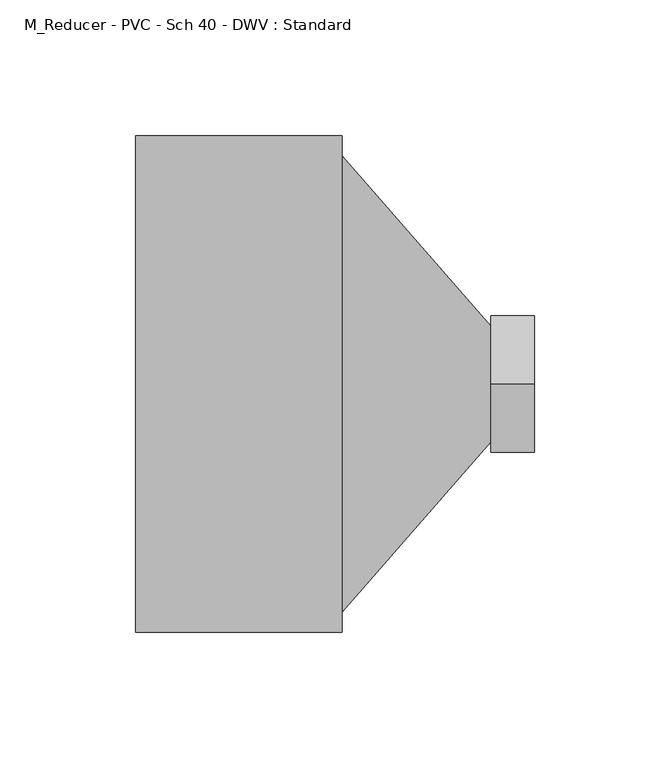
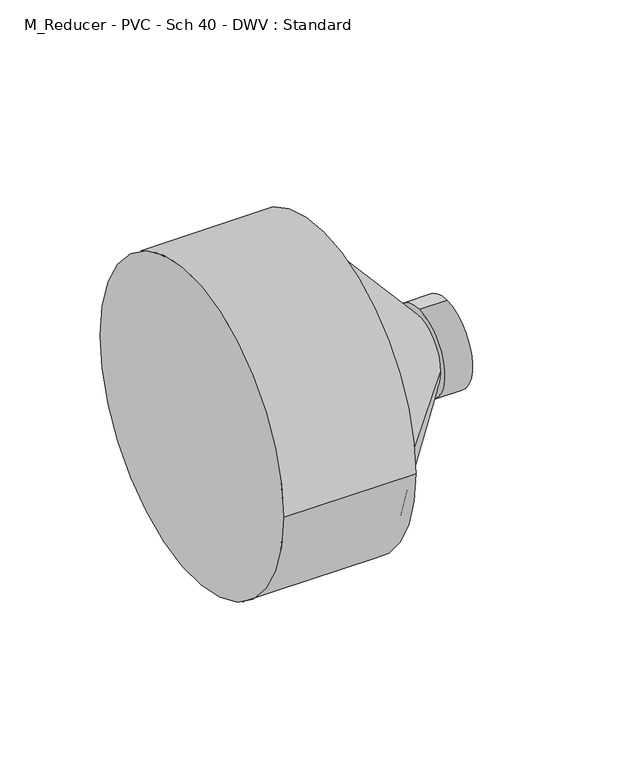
"""IFC4 building model written with IfcOpenShell, lengths in millimetres: pipe fitting geometry, M_Reducer - PVC - Sch 40 - DWV : Standard."""

from ifc_helpers import new_model, si_unit, frame, origin, place, context, project, spatial, polyline, circle_curve, source, transform, mapped, element, save
from ifc_brep_helpers import plane_surface, cylinder_surface, revolved_surface, advanced_brep


def m_reducer_pvc_sch_40_dwv_standard_bf74e410(model_context):
    return source(origin(), model_context, "Body", "AdvancedBrep", [
        advanced_brep(
        [(0.0, -91.5543, 0.0), (0.0, 91.5543, 0.0), (76.2, -91.5543, 0.0), (76.2, 91.5543, 0.0), (76.2, 84.1375, 0.0), (76.2, -84.1375, 0.0), (131.1560938, 21.2040625, 0.0), (131.1560938, -21.2040625, 0.0), (131.1560938, 0.0, 25.2671094), (131.1560938, 0.0, -25.2671094), (147.1560938, 0.0, 25.2671094), (147.1560938, 0.0, -25.2671094)],
        [
            (0, 1, circle_curve(frame((0.0, 0.0, 0.0), z_axis=(-1.0, 0.0, 0.0), x_axis=(0.0, 1.0, 0.0)), 91.5543)),
            (1, 0, circle_curve(frame((0.0, 0.0, 0.0), z_axis=(-1.0, 0.0, 0.0), x_axis=(0.0, 1.0, 0.0)), 91.5543)),
            (2, 3, circle_curve(frame((76.2, 0.0, 0.0), z_axis=(1.0, 0.0, 0.0), x_axis=(0.0, 1.0, 0.0)), 91.5543)),
            (3, 2, circle_curve(frame((76.2, 0.0, 0.0), z_axis=(1.0, 0.0, 0.0), x_axis=(0.0, 1.0, 0.0)), 91.5543)),
            (4, 5, circle_curve(frame((76.2, 0.0, 0.0), z_axis=(-1.0, 0.0, 0.0), x_axis=(0.0, -1.0, 0.0)), 84.1375)),
            (5, 4, circle_curve(frame((76.2, 0.0, 0.0), z_axis=(-1.0, 0.0, 0.0), x_axis=(0.0, 1.0, 0.0)), 84.1375)),
            (0, 2),
            (3, 1),
            (4, 6),
            (6, 7, circle_curve(frame((131.1560938, 0.0, 0.0), z_axis=(-1.0, 0.0, 0.0), x_axis=(0.0, -1.0, 0.0)), 21.2040625)),
            (7, 5),
            (7, 6, circle_curve(frame((131.1560938, 0.0, 0.0), z_axis=(-1.0, 0.0, 0.0), x_axis=(0.0, 1.0, 0.0)), 21.2040625)),
            (8, 9, circle_curve(frame((131.1560938, 0.0, 0.0), z_axis=(-1.0, 0.0, 0.0), x_axis=(0.0, 0.0, -1.0)), 25.2671094)),
            (9, 8, circle_curve(frame((131.1560938, 0.0, 0.0), z_axis=(-1.0, 0.0, 0.0), x_axis=(0.0, 0.0, -1.0)), 25.2671094)),
            (10, 11, circle_curve(frame((147.1560938, 0.0, 0.0), z_axis=(1.0, 0.0, 0.0), x_axis=(0.0, 0.0, -1.0)), 25.2671094)),
            (11, 10, circle_curve(frame((147.1560938, 0.0, 0.0), z_axis=(1.0, 0.0, 0.0), x_axis=(0.0, 0.0, -1.0)), 25.2671094)),
            (8, 10),
            (11, 9),
        ],
        [
            plane_surface(frame((0.0, 0.0, 0.0), z_axis=(-1.0, 0.0, 0.0), x_axis=(0.0, 0.0, 1.0))),
            plane_surface(frame((76.2, 0.0, 0.0), z_axis=(1.0, 0.0, 0.0), x_axis=(0.0, 0.0, 1.0))),
            cylinder_surface(frame((0.0, 0.0, 0.0), z_axis=(-1.0, 0.0, 0.0), x_axis=(0.0, 1.0, 0.0)), 91.5543),
            revolved_surface(polyline([(131.1560938, 21.20406246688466, 0.0), (76.2, 84.1375, 0.0)]), (149.6723626, 0.0, 0.0), (-1.0, 0.0, 0.0)),
            plane_surface(frame((131.1560938, 0.0, 0.0), z_axis=(-1.0, 0.0, 0.0), x_axis=(0.0, 1.0, 0.0))),
            plane_surface(frame((147.1560938, 0.0, 0.0), z_axis=(1.0, 0.0, 0.0), x_axis=(0.0, 1.0, 0.0))),
            cylinder_surface(frame((131.1560938, 0.0, 0.0), z_axis=(-1.0, 0.0, 0.0), x_axis=(0.0, 0.0, -1.0)), 25.2671094),
        ],
        [
            (0, [[1, 2]]),
            (1, [[3, 4], [5, 6]]),
            (2, [[-1, 7, -4, 8]]),
            (2, [[-2, -8, -3, -7]]),
            (3, [[9, 10, 11, -5]]),
            (3, [[-9, -6, -11, 12]]),
            (4, [[13, 14], [-10, -12]]),
            (5, [[15, 16]]),
            (6, [[-13, 17, -16, 18]]),
            (6, [[-14, -18, -15, -17]]),
        ],
    ),
    ])


if __name__ == "__main__":
    model = new_model("IFC4")
    model_context = context("Model", 3, world=origin())
    ifc_project = project(units=[si_unit("LENGTHUNIT", "METRE", prefix="MILLI")], contexts=[model_context])
    site = spatial("IfcSite", under=ifc_project)
    building = spatial("IfcBuilding", under=site)
    placement = place(None, origin())
    m_reducer_pvc_sch_40_dwv_standard_shape = m_reducer_pvc_sch_40_dwv_standard_bf74e410(model_context)
    element("IfcPipeFitting", 1, ObjectType="M_Reducer - PVC - Sch 40 - DWV : Standard", at=placement, inside=building, context=model_context, shape_type="MappedRepresentation", body=[
        mapped(m_reducer_pvc_sch_40_dwv_standard_shape, transform((0.0, 0.0, 0.0), x_axis=(1.0, 0.0, 0.0), y_axis=(0.0, 1.0, 0.0), z_axis=(0.0, 0.0, 1.0))),
    ])
    save(model, "model.ifc")
